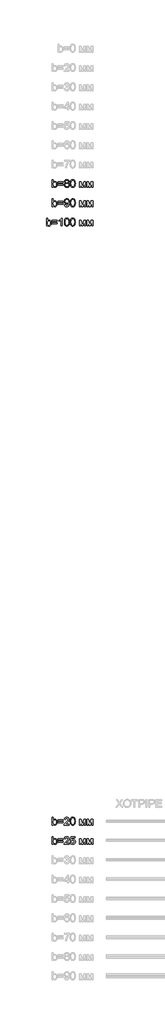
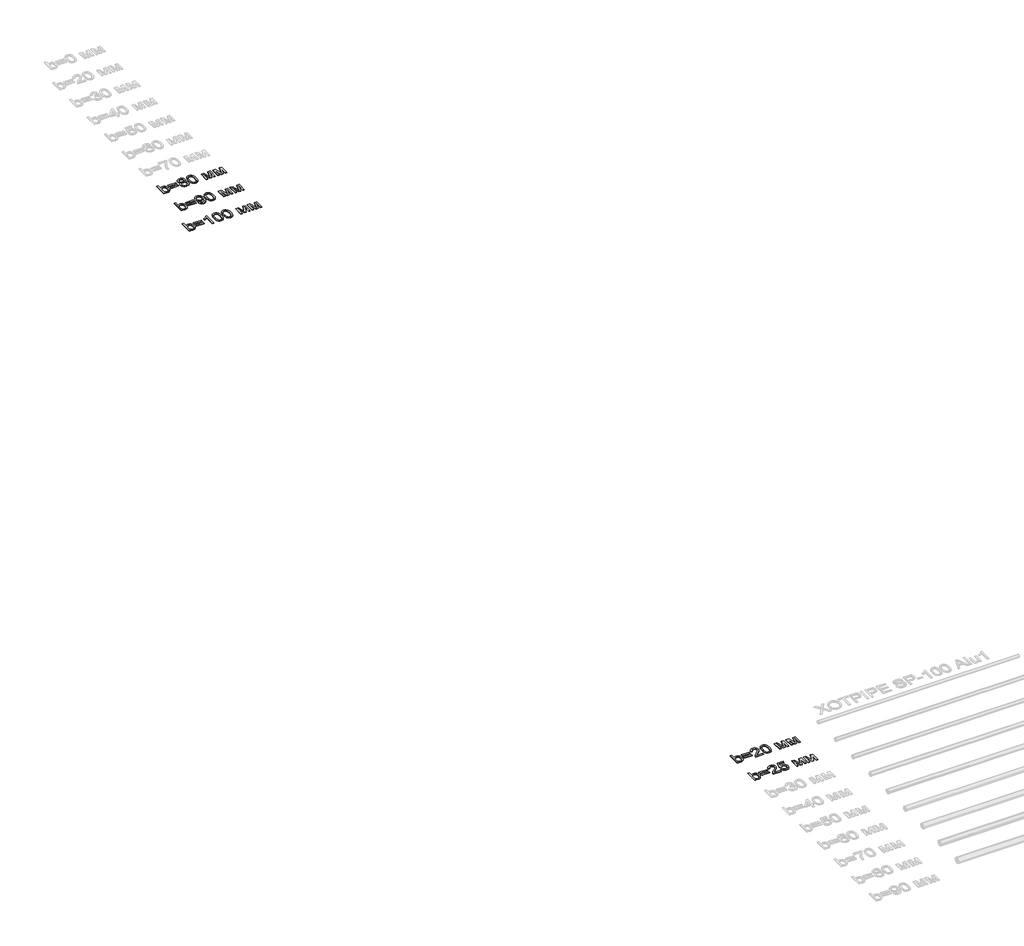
# One storey, part 47 of 86: 5 proxies.
"""IFC4 building model written with IfcOpenShell, lengths in millimetres."""

import ifcopenshell
import ifcopenshell.guid

model = None  # the IFC model being written
_history = None  # IfcOwnerHistory: only IFC2X3 demands one
_inside = {}  # id of a spatial element -> (the spatial element, [elements in it])
_under = {}  # id of a project, library or spatial element -> (it, [spatial elements below it])
_declared = {}  # id of a project -> (the project, [libraries it declares])
_typed = {}  # id of a type object -> (the type object, [elements of that type])
_made_of = {}  # id of a material, layer set ... -> (it, [elements and type objects made of it])


def new_model(schema):
    """Start an empty IFC model of exactly this schema.

    Asked for "IFC4X3", IfcOpenShell would pick the latest addendum, in which some entities
    have other attributes; the version numbers below select the first issue.
    IFC2X3 requires an IfcOwnerHistory on every rooted entity: one is made here for all.
    """
    global model, _history
    if schema == "IFC4X3":
        model = ifcopenshell.file(schema_version=(4, 3, 0, 0))
    else:
        model = ifcopenshell.file(schema=schema)
    _inside.clear()
    _under.clear()
    _declared.clear()
    _typed.clear()
    _made_of.clear()
    _history = None
    if model.schema == "IFC2X3":
        org = make("IfcOrganization", Name="unknown")
        user = make(
            "IfcPersonAndOrganization",
            ThePerson=make("IfcPerson", FamilyName="unknown"),
            TheOrganization=org,
        )
        app = make(
            "IfcApplication",
            ApplicationDeveloper=org,
            Version="unknown",
            ApplicationFullName="unknown",
            ApplicationIdentifier="unknown",
        )
        _history = make(
            "IfcOwnerHistory",
            OwningUser=user,
            OwningApplication=app,
            ChangeAction="ADDED",
            CreationDate=0,
        )
    return model


def make(cls, **values):
    """One entity of the class cls with the attributes given. An attribute that is None is left unset."""
    return model.create_entity(
        cls, **{name: value for name, value in values.items() if value is not None}
    )


def rooted(cls, **values):
    """An entity with a GlobalId (a new one), such as an element, a storey or a relation."""
    return make(cls, GlobalId=ifcopenshell.guid.new(), OwnerHistory=_history, **values)


def si_unit(unit_type, name, prefix=None):
    """IfcSIUnit, for example si_unit("LENGTHUNIT", "METRE", prefix="MILLI")."""
    return make("IfcSIUnit", UnitType=unit_type, Prefix=prefix, Name=name)


def assignment(units):
    """IfcUnitAssignment: the units of a project."""
    return None if units is None else make("IfcUnitAssignment", Units=units)


def point(xyz):
    """IfcCartesianPoint."""
    return None if xyz is None else make("IfcCartesianPoint", Coordinates=xyz)


def direction(xyz):
    """IfcDirection."""
    return None if xyz is None else make("IfcDirection", DirectionRatios=xyz)


def frame(location, z_axis=None, x_axis=None):
    """IfcAxis2Placement3D, a coordinate frame: its origin and axes. An axis left out is left unset."""
    return make(
        "IfcAxis2Placement3D",
        Location=point(location),
        Axis=direction(z_axis),
        RefDirection=direction(x_axis),
    )


def origin():
    """The frame at (0, 0, 0) with its axes left unset."""
    return frame((0.0, 0.0, 0.0))


def origin_with_axes():
    """The frame at (0, 0, 0) with the z axis (0, 0, 1) and the x axis (1, 0, 0) written out."""
    return frame((0.0, 0.0, 0.0), z_axis=(0.0, 0.0, 1.0), x_axis=(1.0, 0.0, 0.0))


def place(relative_to, where):
    """IfcLocalPlacement: puts the frame where relative to a parent placement (None: the world)."""
    return make(
        "IfcLocalPlacement", PlacementRelTo=relative_to, RelativePlacement=where
    )


def context(
    kind, dimensions, precision=None, world=None, true_north=None, identifier=None
):
    """IfcGeometricRepresentationContext, for example the 3D "Model" context."""
    return make(
        "IfcGeometricRepresentationContext",
        ContextIdentifier=identifier,
        ContextType=kind,
        CoordinateSpaceDimension=dimensions,
        Precision=precision,
        WorldCoordinateSystem=world,
        TrueNorth=true_north,
    )


def project(units=None, contexts=None):
    """IfcProject with its units and contexts."""
    return rooted(
        "IfcProject",
        Name="project",
        RepresentationContexts=contexts,
        UnitsInContext=assignment(units),
    )


def spatial(cls, under=None, at=None, **own):
    """A site, building, storey or space (cls), placed at a placement, below another one or the project."""
    s = rooted(cls, ObjectPlacement=at, **own)
    if under is not None:
        _under.setdefault(under.id(), (under, []))[1].append(s)
    return s


def polyline(points):
    """IfcPolyline through the points."""
    return make("IfcPolyline", Points=[point(p) for p in points])


def outline(outer, holes=None, kind="AREA"):
    """IfcArbitraryClosedProfileDef: a profile drawn as a closed curve; with holes, ...WithVoids."""
    if holes is None:
        return make("IfcArbitraryClosedProfileDef", ProfileType=kind, OuterCurve=outer)
    return make(
        "IfcArbitraryProfileDefWithVoids",
        ProfileType=kind,
        OuterCurve=outer,
        InnerCurves=holes,
    )


def extrude(swept, where, along, depth):
    """IfcExtrudedAreaSolid: the profile swept, set in the frame where, extruded along a direction by depth."""
    return make(
        "IfcExtrudedAreaSolid",
        SweptArea=swept,
        Position=where,
        ExtrudedDirection=direction(along),
        Depth=depth,
    )


def shape(context_of_items, identifier, shape_type, items):
    """IfcShapeRepresentation: the items that make up one representation, for example the "Body"."""
    return make(
        "IfcShapeRepresentation",
        ContextOfItems=context_of_items,
        RepresentationIdentifier=identifier,
        RepresentationType=shape_type,
        Items=items,
    )


def made_of(thing, what):
    """Note that an element or type object is made of a material, layer set ...; save() writes the relation."""
    if what is not None:
        _made_of.setdefault(what.id(), (what, []))[1].append(thing)
    return thing


def element(
    cls,
    number,
    at=None,
    inside=None,
    cuts=None,
    type_object=None,
    material=None,
    context=None,
    identifier="Body",
    shape_type=None,
    held_by="IfcProductDefinitionShape",
    body=None,
    shapes=None,
    **own,
):
    """One element of the class cls, such as IfcWall. Its Tag is "e" and its number.

    at: its placement. inside: the storey or other place that contains it. cuts: it is an
    opening in that element (IfcRelVoidsElement). A single representation is given by context,
    identifier, shape_type and body (its items); several are given by shapes. held_by: the class
    of the entity that holds the representations. save() writes the other relations.
    """
    e = rooted(cls, Tag="e%d" % number, ObjectPlacement=at, **own)
    if body is not None:
        shapes = [shape(context, identifier, shape_type, body)]
    if shapes is not None:
        e.Representation = make(held_by, Representations=shapes)
    if inside is not None:
        _inside.setdefault(inside.id(), (inside, []))[1].append(e)
    if cuts is not None:
        rooted(
            "IfcRelVoidsElement", RelatingBuildingElement=cuts, RelatedOpeningElement=e
        )
    if type_object is not None:
        _typed.setdefault(type_object.id(), (type_object, []))[1].append(e)
    return made_of(e, material)


def aggregate(whole, parts):
    """IfcRelAggregates: a whole, such as a stair, and the parts it consists of."""
    return rooted("IfcRelAggregates", RelatingObject=whole, RelatedObjects=parts)


def save(model, path):
    """Write the relations noted so far, then the file.

    IfcRelAggregates (storeys below a building ...), IfcRelContainedInSpatialStructure (elements
    in a storey), IfcRelDefinesByType, IfcRelAssociatesMaterial and IfcRelDeclares: one each for
    every whole, place, type object, material and project.
    """
    for whole, parts in _under.values():
        aggregate(whole, parts)
    for where, things in _inside.values():
        rooted(
            "IfcRelContainedInSpatialStructure",
            RelatedElements=things,
            RelatingStructure=where,
        )
    for kind, things in _typed.values():
        rooted("IfcRelDefinesByType", RelatedObjects=things, RelatingType=kind)
    for what, things in _made_of.values():
        rooted("IfcRelAssociatesMaterial", RelatedObjects=things, RelatingMaterial=what)
    for by, libraries in _declared.values():
        rooted("IfcRelDeclares", RelatingContext=by, RelatedDefinitions=libraries)
    model.write(path)


model = new_model("IFC4")

# Units and contexts
model_context = context("Model", 3, world=origin())
ifc_project = project(units=[si_unit("LENGTHUNIT", "METRE", prefix="MILLI")], contexts=[model_context])

# Site, building, storey
site = spatial("IfcSite", under=ifc_project)
building = spatial("IfcBuilding", under=site)
storey = spatial("IfcBuildingStorey", under=building, Name="Уровень 1", Elevation=0.0)

# Proxies
placement = place(None, origin())
element("IfcBuildingElementProxy", 1, Name="Текст модели 1", ObjectType="Текст модели 1", at=placement, inside=storey, context=model_context, shape_type="SweptSolid", body=[
    extrude(outline(polyline([(-2840.3692012, 29169.2937088), (-2915.7114338, 29169.2937088), (-2915.7114338, 29772.0315697), (-2840.3692012, 29772.0315697), (-2840.3692012, 29548.5064694), (-2815.5923488, 29580.3742473), (-2787.6149231, 29603.1369457), (-2756.436924, 29616.7945648), (-2722.0583516, 29621.3471045), (-2683.2468011, 29617.2452202), (-2646.5689661, 29604.9395675), (-2614.1217742, 29585.2026984), (-2588.0021525, 29558.8071653), (-2567.5295195, 29526.0104854), (-2552.0232934, 29487.0701762), (-2542.2560264, 29443.6049185), (-2539.0002708, 29397.233393), (-2542.3709895, 29343.7249568), (-2552.4831459, 29296.6544555), (-2569.3367398, 29256.0218892), (-2592.9317712, 29221.8272577), (-2621.2540864, 29194.7235517), (-2652.2895312, 29175.3637617), (-2686.0381057, 29163.7478877), (-2722.49981, 29159.8759297), (-2758.0096195, 29164.8699278), (-2789.4911213, 29179.8519221), (-2816.9443152, 29204.8219125), (-2840.3692012, 29239.7798991), (-2840.3692012, 29169.2937088)]), holes=[polyline([(-2840.3692012, 29393.7017259), (-2835.2188533, 29330.8674811), (-2828.7809184, 29307.065516), (-2819.7678095, 29288.3403224), (-2801.5116655, 29265.0993774), (-2780.2940714, 29248.4987024), (-2756.1150273, 29238.5382973), (-2728.9745331, 29235.2181623), (-2706.4417609, 29237.6645776), (-2685.4908812, 29245.0038234), (-2666.1218942, 29257.2358997), (-2648.3347997, 29274.3608066), (-2633.4631701, 29296.3325588), (-2622.8405775, 29323.105171), (-2616.4670219, 29354.6786432), (-2614.3425034, 29391.0529755), (-2616.3796499, 29428.1170865), (-2622.4910896, 29459.9940614), (-2632.6768223, 29486.6839001), (-2646.9368481, 29508.1866028), (-2664.0847476, 29524.7320955), (-2682.9341014, 29536.5503046), (-2703.4849093, 29543.64123), (-2725.7371715, 29546.0048719), (-2748.2699437, 29543.5584566), (-2769.2208233, 29536.2192108), (-2788.5898104, 29523.9871344), (-2806.3769049, 29506.8622276), (-2821.2485345, 29485.1112046), (-2831.8711271, 29459.00078), (-2838.2446827, 29428.5309538), (-2840.3692012, 29393.7017259)])]), origin_with_axes(), (0.0, 0.0, 1.0), 20.0),
    extrude(outline(polyline([(-2068.1113169, 29517.7515346), (-2463.6580381, 29517.7515346), (-2463.6580381, 29593.0937672), (-2068.1113169, 29593.0937672), (-2068.1113169, 29517.7515346)])), origin_with_axes(), (0.0, 0.0, 1.0), 20.0),
    extrude(outline(polyline([(-2068.1113169, 29338.8137322), (-2463.6580381, 29338.8137322), (-2463.6580381, 29414.1559648), (-2068.1113169, 29414.1559648), (-2068.1113169, 29338.8137322)])), origin_with_axes(), (0.0, 0.0, 1.0), 20.0),
    extrude(outline(polyline([(-1597.2223631, 29244.6359414), (-1597.2223631, 29169.2937088), (-1992.7690843, 29169.2937088), (-1991.1136153, 29195.8180007), (-1984.6756804, 29221.2386465), (-1966.0976397, 29261.8344247), (-1938.9111602, 29301.2161923), (-1899.5845749, 29342.4373698), (-1844.5862167, 29388.5513779), (-1763.2842957, 29460.7666136), (-1714.5031432, 29514.0727147), (-1700.275307, 29535.8513288), (-1690.1125669, 29557.3356373), (-1684.0149228, 29578.5256402), (-1681.9823748, 29599.4213376), (-1683.8999597, 29619.0800317), (-1689.6527144, 29637.1476362), (-1699.2406389, 29653.624151), (-1712.6637332, 29668.5095763), (-1729.1770362, 29680.8382216), (-1748.035587, 29689.6443969), (-1769.2393855, 29694.928102), (-1792.7884317, 29696.6893371), (-1817.5974738, 29694.9694888), (-1839.7853566, 29689.8099438), (-1859.3520802, 29681.2107021), (-1876.2976446, 29669.1717638), (-1890.0058475, 29654.0977991), (-1899.8604864, 29636.3934781), (-1905.8615615, 29616.0588008), (-1908.0090726, 29593.0937672), (-1983.3513052, 29602.5115463), (-1976.8719836, 29641.4058703), (-1965.0859642, 29675.3889696), (-1947.993247, 29704.4608442), (-1925.593832, 29728.6214943), (-1898.402754, 29747.6134023), (-1866.9350479, 29761.1790508), (-1831.1907135, 29769.31844), (-1791.169751, 29772.0315697), (-1750.7901035, 29769.0149373), (-1714.8526311, 29759.9650403), (-1683.3573338, 29744.8818785), (-1656.3042115, 29723.7654519), (-1634.5761812, 29698.1792592), (-1619.0561595, 29669.6867986), (-1609.7441465, 29638.2880704), (-1606.6401422, 29603.9830743), (-1609.9878683, 29567.9490329), (-1620.0310468, 29532.5403908), (-1637.8549295, 29496.5247435), (-1664.5447682, 29458.6696862), (-1707.090321, 29413.4753831), (-1772.4813456, 29355.4419984), (-1859.1543437, 29282.9692453), (-1893.14664, 29244.6359414), (-1597.2223631, 29244.6359414)])), origin_with_axes(), (0.0, 0.0, 1.0), 20.0),
    extrude(outline(polyline([(-1521.8801305, 29465.8065969), (-1516.3435065, 29562.2836501), (-1509.4227264, 29603.1967265), (-1499.7336344, 29639.2261694), (-1487.317617, 29670.6662845), (-1472.2160611, 29697.8113772), (-1454.4289667, 29720.6614476), (-1433.9563336, 29739.2164957), (-1410.7291842, 29753.5730906), (-1384.6785404, 29763.8278012), (-1355.8044023, 29769.9806276), (-1324.1067699, 29772.0315697), (-1277.6800621, 29767.1755274), (-1236.1093966, 29752.6074004), (-1201.3445481, 29728.8974058), (-1175.335291, 29696.6157607), (-1155.6903925, 29656.0383766), (-1140.0186195, 29607.4411651), (-1129.7547118, 29545.7289604), (-1126.3334093, 29465.8065969), (-1131.814851, 29369.8813667), (-1138.6666532, 29329.106246), (-1148.2591762, 29293.1227884), (-1160.5786245, 29261.6688778), (-1175.6112025, 29234.4823983), (-1193.3569103, 29211.56335), (-1213.8157477, 29192.9117329), (-1237.0704884, 29178.458569), (-1263.2039056, 29168.1348805), (-1292.2159994, 29161.9406674), (-1324.1067699, 29159.8759297), (-1365.6038589, 29163.4627792), (-1402.3920585, 29174.2233275), (-1434.4713684, 29192.1575748), (-1461.8417889, 29217.265521), (-1488.1085633, 29262.6529621), (-1506.8705451, 29319.2056218), (-1518.1277341, 29386.9235001), (-1521.8801305, 29465.8065969)]), holes=[polyline([(-1446.5378979, 29465.9537497), (-1444.3306059, 29400.456959), (-1437.70873, 29347.440565), (-1426.6722701, 29306.9045676), (-1411.2212263, 29278.848967), (-1392.532821, 29259.7604899), (-1371.7842765, 29246.1258635), (-1348.9755928, 29237.9450876), (-1324.1067699, 29235.2181623), (-1299.237947, 29237.9542847), (-1276.4292633, 29246.1626517), (-1255.6807188, 29259.8432634), (-1236.9923134, 29278.9961198), (-1221.5412696, 29307.0977057), (-1210.5048098, 29347.624506), (-1203.8829339, 29400.5765206), (-1201.6756419, 29465.9537497), (-1203.8093575, 29529.7168965), (-1210.2105042, 29581.79979), (-1220.879082, 29622.2024301), (-1235.815091, 29650.9248169), (-1254.1907967, 29670.9467945), (-1275.1784645, 29685.248207), (-1298.7780945, 29693.8290546), (-1324.9896867, 29696.6893371), (-1349.7297508, 29694.1693454), (-1372.1521585, 29686.6093704), (-1392.2569095, 29674.0094121), (-1410.044004, 29656.3694704), (-1426.0100825, 29625.0995008), (-1437.4144244, 29582.9402242), (-1444.2570295, 29529.8916405), (-1446.5378979, 29465.9537497)])]), origin_with_axes(), (0.0, 0.0, 1.0), 20.0),
    extrude(outline(polyline([(-806.1289207, 29611.9293254), (-676.4873056, 29611.9293254), (-576.5705557, 29257.5853876), (-468.8547075, 29611.9293254), (-344.6577459, 29611.9293254), (-344.6577459, 29169.2937088), (-419.9999785, 29169.2937088), (-419.9999785, 29525.6977857), (-528.3044379, 29169.2937088), (-627.1911182, 29169.2937088), (-730.7866881, 29542.7675103), (-730.7866881, 29169.2937088), (-806.1289207, 29169.2937088), (-806.1289207, 29611.9293254)])), origin_with_axes(), (0.0, 0.0, 1.0), 20.0),
    extrude(outline(polyline([(-231.644397, 29611.9293254), (-102.0027819, 29611.9293254), (-2.086032, 29257.5853876), (105.6298162, 29611.9293254), (229.8267777, 29611.9293254), (229.8267777, 29169.2937088), (154.4845451, 29169.2937088), (154.4845451, 29525.6977857), (46.1800857, 29169.2937088), (-52.7065946, 29169.2937088), (-156.3021644, 29542.7675103), (-156.3021644, 29169.2937088), (-231.644397, 29169.2937088), (-231.644397, 29611.9293254)])), origin_with_axes(), (0.0, 0.0, 1.0), 20.0),
])
element("IfcBuildingElementProxy", 2, Name="Текст модели 1", ObjectType="Текст модели 1", at=placement, inside=storey, context=model_context, shape_type="SweptSolid", body=[
    extrude(outline(polyline([(-2840.3692012, 27669.2937088), (-2915.7114338, 27669.2937088), (-2915.7114338, 28272.0315697), (-2840.3692012, 28272.0315697), (-2840.3692012, 28048.5064694), (-2815.5923488, 28080.3742473), (-2787.6149231, 28103.1369457), (-2756.436924, 28116.7945648), (-2722.0583516, 28121.3471045), (-2683.2468011, 28117.2452202), (-2646.5689661, 28104.9395675), (-2614.1217742, 28085.2026984), (-2588.0021525, 28058.8071653), (-2567.5295195, 28026.0104854), (-2552.0232934, 27987.0701762), (-2542.2560264, 27943.6049185), (-2539.0002708, 27897.233393), (-2542.3709895, 27843.7249568), (-2552.4831459, 27796.6544555), (-2569.3367398, 27756.0218892), (-2592.9317712, 27721.8272577), (-2621.2540864, 27694.7235517), (-2652.2895312, 27675.3637617), (-2686.0381057, 27663.7478877), (-2722.49981, 27659.8759297), (-2758.0096195, 27664.8699278), (-2789.4911213, 27679.8519221), (-2816.9443152, 27704.8219125), (-2840.3692012, 27739.7798991), (-2840.3692012, 27669.2937088)]), holes=[polyline([(-2840.3692012, 27893.7017259), (-2835.2188533, 27830.8674811), (-2828.7809184, 27807.065516), (-2819.7678095, 27788.3403224), (-2801.5116655, 27765.0993774), (-2780.2940714, 27748.4987024), (-2756.1150273, 27738.5382973), (-2728.9745331, 27735.2181623), (-2706.4417609, 27737.6645776), (-2685.4908812, 27745.0038234), (-2666.1218942, 27757.2358997), (-2648.3347997, 27774.3608066), (-2633.4631701, 27796.3325588), (-2622.8405775, 27823.105171), (-2616.4670219, 27854.6786432), (-2614.3425034, 27891.0529755), (-2616.3796499, 27928.1170865), (-2622.4910896, 27959.9940614), (-2632.6768223, 27986.6839001), (-2646.9368481, 28008.1866028), (-2664.0847476, 28024.7320955), (-2682.9341014, 28036.5503046), (-2703.4849093, 28043.64123), (-2725.7371715, 28046.0048719), (-2748.2699437, 28043.5584566), (-2769.2208233, 28036.2192108), (-2788.5898104, 28023.9871344), (-2806.3769049, 28006.8622276), (-2821.2485345, 27985.1112046), (-2831.8711271, 27959.00078), (-2838.2446827, 27928.5309538), (-2840.3692012, 27893.7017259)])]), origin_with_axes(), (0.0, 0.0, 1.0), 20.0),
    extrude(outline(polyline([(-2068.1113169, 28017.7515346), (-2463.6580381, 28017.7515346), (-2463.6580381, 28093.0937672), (-2068.1113169, 28093.0937672), (-2068.1113169, 28017.7515346)])), origin_with_axes(), (0.0, 0.0, 1.0), 20.0),
    extrude(outline(polyline([(-2068.1113169, 27838.8137322), (-2463.6580381, 27838.8137322), (-2463.6580381, 27914.1559648), (-2068.1113169, 27914.1559648), (-2068.1113169, 27838.8137322)])), origin_with_axes(), (0.0, 0.0, 1.0), 20.0),
    extrude(outline(polyline([(-1597.2223631, 27744.6359414), (-1597.2223631, 27669.2937088), (-1992.7690843, 27669.2937088), (-1991.1136153, 27695.8180007), (-1984.6756804, 27721.2386465), (-1966.0976397, 27761.8344247), (-1938.9111602, 27801.2161923), (-1899.5845749, 27842.4373698), (-1844.5862167, 27888.5513779), (-1763.2842957, 27960.7666136), (-1714.5031432, 28014.0727147), (-1700.275307, 28035.8513288), (-1690.1125669, 28057.3356373), (-1684.0149228, 28078.5256402), (-1681.9823748, 28099.4213376), (-1683.8999597, 28119.0800317), (-1689.6527144, 28137.1476362), (-1699.2406389, 28153.624151), (-1712.6637332, 28168.5095763), (-1729.1770362, 28180.8382216), (-1748.035587, 28189.6443969), (-1769.2393855, 28194.928102), (-1792.7884317, 28196.6893371), (-1817.5974738, 28194.9694888), (-1839.7853566, 28189.8099438), (-1859.3520802, 28181.2107021), (-1876.2976446, 28169.1717638), (-1890.0058475, 28154.0977991), (-1899.8604864, 28136.3934781), (-1905.8615615, 28116.0588008), (-1908.0090726, 28093.0937672), (-1983.3513052, 28102.5115463), (-1976.8719836, 28141.4058703), (-1965.0859642, 28175.3889696), (-1947.993247, 28204.4608442), (-1925.593832, 28228.6214943), (-1898.402754, 28247.6134023), (-1866.9350479, 28261.1790508), (-1831.1907135, 28269.31844), (-1791.169751, 28272.0315697), (-1750.7901035, 28269.0149373), (-1714.8526311, 28259.9650403), (-1683.3573338, 28244.8818785), (-1656.3042115, 28223.7654519), (-1634.5761812, 28198.1792592), (-1619.0561595, 28169.6867986), (-1609.7441465, 28138.2880704), (-1606.6401422, 28103.9830743), (-1609.9878683, 28067.9490329), (-1620.0310468, 28032.5403908), (-1637.8549295, 27996.5247435), (-1664.5447682, 27958.6696862), (-1707.090321, 27913.4753831), (-1772.4813456, 27855.4419984), (-1859.1543437, 27782.9692453), (-1893.14664, 27744.6359414), (-1597.2223631, 27744.6359414)])), origin_with_axes(), (0.0, 0.0, 1.0), 20.0),
    extrude(outline(polyline([(-1521.8801305, 27829.3959531), (-1446.5378979, 27838.8137322), (-1440.9093034, 27814.5933013), (-1432.7055349, 27793.5826409), (-1421.9265924, 27775.7817508), (-1408.572476, 27761.1906312), (-1392.6707767, 27749.8276761), (-1374.2490858, 27741.7112795), (-1353.3074033, 27736.8414416), (-1329.845729, 27735.2181623), (-1301.1509334, 27737.4760381), (-1275.8406521, 27744.2496653), (-1253.9148852, 27755.539044), (-1235.3736326, 27771.3441743), (-1220.6307617, 27790.8833067), (-1210.1001396, 27813.3746922), (-1203.7817663, 27838.8183307), (-1201.6756419, 27867.2142222), (-1203.6484091, 27894.0512138), (-1209.5667107, 27917.9083611), (-1219.4305467, 27938.7856644), (-1233.2399171, 27956.6831234), (-1251.0408071, 27971.0397183), (-1272.8792021, 27981.2944289), (-1298.7551019, 27987.4472553), (-1328.6685066, 27989.4981974), (-1365.2175828, 27986.2240476), (-1394.8136894, 27976.4015984), (-1418.4501075, 27961.3552248), (-1437.1201188, 27942.409302), (-1512.4623514, 27951.8270811), (-1446.5378979, 28262.6137906), (-1154.5867465, 28262.6137906), (-1154.5867465, 28187.271558), (-1385.6166395, 28187.271558), (-1417.8431023, 28021.2832018), (-1391.2544311, 28040.3394891), (-1364.0219664, 28053.951123), (-1336.1457082, 28062.1181032), (-1307.6256565, 28064.84043), (-1270.934026, 28061.4651127), (-1237.2314367, 28051.3391608), (-1206.5178887, 28034.4625743), (-1178.7933818, 28010.8353531), (-1155.8421438, 27981.9014342), (-1139.4484024, 27949.1047543), (-1129.6121576, 27912.4453135), (-1126.3334093, 27871.9231117), (-1129.2856623, 27832.8908321), (-1138.1424213, 27796.5808791), (-1152.9036864, 27762.993253), (-1173.5694575, 27732.1279536), (-1204.8762152, 27700.5176931), (-1241.4068974, 27677.9389357), (-1283.1615038, 27664.3916812), (-1330.1400346, 27659.8759297), (-1369.020563, 27662.777599), (-1404.1394979, 27671.4826067), (-1435.4968395, 27685.9909529), (-1463.0925877, 27706.3026375), (-1486.0530227, 27731.4059852), (-1503.5044248, 27760.2893203), (-1515.4467941, 27792.952643), (-1521.8801305, 27829.3959531)])), origin_with_axes(), (0.0, 0.0, 1.0), 20.0),
    extrude(outline(polyline([(-806.1289207, 28111.9293254), (-676.4873056, 28111.9293254), (-576.5705557, 27757.5853876), (-468.8547075, 28111.9293254), (-344.6577459, 28111.9293254), (-344.6577459, 27669.2937088), (-419.9999785, 27669.2937088), (-419.9999785, 28025.6977857), (-528.3044379, 27669.2937088), (-627.1911182, 27669.2937088), (-730.7866881, 28042.7675103), (-730.7866881, 27669.2937088), (-806.1289207, 27669.2937088), (-806.1289207, 28111.9293254)])), origin_with_axes(), (0.0, 0.0, 1.0), 20.0),
    extrude(outline(polyline([(-231.644397, 28111.9293254), (-102.0027819, 28111.9293254), (-2.086032, 27757.5853876), (105.6298162, 28111.9293254), (229.8267777, 28111.9293254), (229.8267777, 27669.2937088), (154.4845451, 27669.2937088), (154.4845451, 28025.6977857), (46.1800857, 27669.2937088), (-52.7065946, 27669.2937088), (-156.3021644, 28042.7675103), (-156.3021644, 27669.2937088), (-231.644397, 27669.2937088), (-231.644397, 28111.9293254)])), origin_with_axes(), (0.0, 0.0, 1.0), 20.0),
])
element("IfcBuildingElementProxy", 3, Name="Текст модели 1", ObjectType="Текст модели 1", at=placement, inside=storey, context=model_context, shape_type="SweptSolid", body=[
    extrude(outline(polyline([(-2840.3692012, 78669.2937088), (-2915.7114338, 78669.2937088), (-2915.7114338, 79272.0315697), (-2840.3692012, 79272.0315697), (-2840.3692012, 79048.5064694), (-2815.5923488, 79080.3742473), (-2787.6149231, 79103.1369457), (-2756.436924, 79116.7945648), (-2722.0583516, 79121.3471045), (-2683.2468011, 79117.2452202), (-2646.5689661, 79104.9395675), (-2614.1217742, 79085.2026984), (-2588.0021525, 79058.8071653), (-2567.5295195, 79026.0104854), (-2552.0232934, 78987.0701762), (-2542.2560264, 78943.6049185), (-2539.0002708, 78897.233393), (-2542.3709895, 78843.7249568), (-2552.4831459, 78796.6544555), (-2569.3367398, 78756.0218892), (-2592.9317712, 78721.8272577), (-2621.2540864, 78694.7235517), (-2652.2895312, 78675.3637617), (-2686.0381057, 78663.7478877), (-2722.49981, 78659.8759297), (-2758.0096195, 78664.8699278), (-2789.4911213, 78679.8519221), (-2816.9443152, 78704.8219125), (-2840.3692012, 78739.7798991), (-2840.3692012, 78669.2937088)]), holes=[polyline([(-2840.3692012, 78893.7017259), (-2835.2188533, 78830.8674811), (-2828.7809184, 78807.065516), (-2819.7678095, 78788.3403224), (-2801.5116655, 78765.0993774), (-2780.2940714, 78748.4987024), (-2756.1150273, 78738.5382973), (-2728.9745331, 78735.2181623), (-2706.4417609, 78737.6645776), (-2685.4908812, 78745.0038234), (-2666.1218942, 78757.2358997), (-2648.3347997, 78774.3608066), (-2633.4631701, 78796.3325588), (-2622.8405775, 78823.105171), (-2616.4670219, 78854.6786432), (-2614.3425034, 78891.0529755), (-2616.3796499, 78928.1170865), (-2622.4910896, 78959.9940614), (-2632.6768223, 78986.6839001), (-2646.9368481, 79008.1866028), (-2664.0847476, 79024.7320955), (-2682.9341014, 79036.5503046), (-2703.4849093, 79043.64123), (-2725.7371715, 79046.0048719), (-2748.2699437, 79043.5584566), (-2769.2208233, 79036.2192108), (-2788.5898104, 79023.9871344), (-2806.3769049, 79006.8622276), (-2821.2485345, 78985.1112046), (-2831.8711271, 78959.00078), (-2838.2446827, 78928.5309538), (-2840.3692012, 78893.7017259)])]), origin_with_axes(), (0.0, 0.0, 1.0), 20.0),
    extrude(outline(polyline([(-2068.1113169, 79017.7515346), (-2463.6580381, 79017.7515346), (-2463.6580381, 79093.0937672), (-2068.1113169, 79093.0937672), (-2068.1113169, 79017.7515346)])), origin_with_axes(), (0.0, 0.0, 1.0), 20.0),
    extrude(outline(polyline([(-2068.1113169, 78838.8137322), (-2463.6580381, 78838.8137322), (-2463.6580381, 78914.1559648), (-2068.1113169, 78914.1559648), (-2068.1113169, 78838.8137322)])), origin_with_axes(), (0.0, 0.0, 1.0), 20.0),
    extrude(outline(polyline([(-1873.5753179, 79001.2704212), (-1913.9135787, 79021.136049), (-1929.5715561, 79033.7176132), (-1942.2220982, 79048.065011), (-1958.9423349, 79081.5054844), (-1964.5157471, 79120.9056461), (-1961.4807206, 79151.6329897), (-1952.3756412, 79179.8035535), (-1937.2005089, 79205.4173374), (-1915.9553237, 79228.4743415), (-1889.6609581, 79247.5306288), (-1859.3382847, 79261.1422626), (-1824.9873034, 79269.3092429), (-1786.6080142, 79272.0315697), (-1748.0447841, 79269.2448636), (-1713.4362854, 79260.8847452), (-1682.7825181, 79246.9512147), (-1656.0834823, 79227.4442719), (-1634.452021, 79203.9366124), (-1619.0009772, 79178.0009317), (-1609.7303509, 79149.6372299), (-1606.6401422, 79118.8455069), (-1612.139978, 79080.7145381), (-1628.6394855, 79047.8442818), (-1641.0601014, 79033.593453), (-1656.3226056, 79021.0808667), (-1695.3732794, 79001.2704212), (-1670.6102226, 78990.7352006), (-1649.0017539, 78977.3764857), (-1630.5478733, 78961.1942764), (-1615.2485809, 78942.1885728), (-1603.2418323, 78920.7824392), (-1594.6655832, 78897.3989399), (-1589.5198338, 78872.0380749), (-1587.804584, 78844.6998441), (-1591.2074925, 78807.1206983), (-1601.4162178, 78772.6685494), (-1618.4307601, 78741.3433976), (-1642.2511193, 78713.1452426), (-1671.6264966, 78689.8399182), (-1705.3060933, 78673.1932579), (-1743.2899093, 78663.2052618), (-1785.5779446, 78659.8759297), (-1827.86598, 78663.2190574), (-1865.849796, 78673.2484402), (-1899.5293926, 78689.9640784), (-1928.90477, 78713.3659718), (-1952.7251291, 78741.7618633), (-1969.7396714, 78773.4594957), (-1979.9483968, 78808.458869), (-1983.3513052, 78846.7599833), (-1981.5670776, 78875.3444143), (-1976.2143945, 78901.5008242), (-1967.2932562, 78925.2292128), (-1954.8036624, 78946.5295804), (-1939.0215248, 78965.0156506), (-1920.2227549, 78980.3011475), (-1898.4073526, 78992.3860711), (-1873.5753179, 79001.2704212)]), holes=[polyline([(-1889.1735145, 79118.6983541), (-1887.5042499, 79101.4262944), (-1882.4964563, 79085.8097037), (-1874.1501335, 79071.848582), (-1862.4652816, 79059.5429293), (-1847.5890534, 79049.4997508), (-1829.6686018, 79042.3260519), (-1808.7039266, 79038.0218326), (-1784.6950278, 79036.5870928), (-1761.2793389, 79038.0126355), (-1740.7699176, 79042.2892637), (-1723.1667642, 79049.4169774), (-1708.4698784, 79059.3957765), (-1696.8815956, 79071.4439118), (-1688.6042507, 79084.7796342), (-1683.6378438, 79099.4029435), (-1681.9823748, 79115.3138398), (-1683.6930261, 79131.8455369), (-1688.8249799, 79147.0068736), (-1697.3782363, 79160.7978499), (-1709.3527952, 79173.2184658), (-1724.3807747, 79183.486972), (-1742.0942928, 79190.8216193), (-1762.4933494, 79195.2224076), (-1785.5779446, 79196.6893371), (-1808.8418823, 79195.2545973), (-1829.337508, 79190.950378), (-1847.0648216, 79183.7766791), (-1862.0238232, 79173.7335006), (-1873.9018132, 79161.6853652), (-1882.3860917, 79148.4967957), (-1887.4766588, 79134.167792), (-1889.1735145, 79118.6983541)]), polyline([(-1908.0090726, 78849.4087336), (-1904.8636816, 78820.5851793), (-1895.4275084, 78792.68133), (-1878.0082959, 78768.345936), (-1850.913787, 78750.2277477), (-1818.466595, 78738.9705587), (-1784.9893334, 78735.2181623), (-1757.7476717, 78737.1909295), (-1733.7065833, 78743.1092311), (-1712.8660683, 78752.9730671), (-1695.2261266, 78766.7824375), (-1681.1914285, 78783.6360314), (-1671.1666441, 78802.632538), (-1665.1517735, 78823.7719571), (-1663.1468166, 78847.0542889), (-1665.2161529, 78870.7091012), (-1671.4241615, 78892.2301979), (-1681.7708426, 78911.617579), (-1696.2561962, 78928.8712446), (-1714.3743845, 78943.0347014), (-1735.6195697, 78953.1514563), (-1759.9917519, 78959.2215092), (-1787.490931, 78961.2448602), (-1814.3325211, 78959.2491003), (-1838.0563112, 78953.2618209), (-1858.6623015, 78943.2830218), (-1876.1504918, 78929.312703), (-1890.0886209, 78912.344146), (-1900.0444274, 78893.3706321), (-1906.0179113, 78872.3921613), (-1908.0090726, 78849.4087336)])]), origin_with_axes(), (0.0, 0.0, 1.0), 20.0),
    extrude(outline(polyline([(-1521.8801305, 78965.8065969), (-1516.3435065, 79062.2836501), (-1509.4227264, 79103.1967265), (-1499.7336344, 79139.2261694), (-1487.317617, 79170.6662845), (-1472.2160611, 79197.8113772), (-1454.4289667, 79220.6614476), (-1433.9563336, 79239.2164957), (-1410.7291842, 79253.5730906), (-1384.6785404, 79263.8278012), (-1355.8044023, 79269.9806276), (-1324.1067699, 79272.0315697), (-1277.6800621, 79267.1755274), (-1236.1093966, 79252.6074004), (-1201.3445481, 79228.8974058), (-1175.335291, 79196.6157607), (-1155.6903925, 79156.0383766), (-1140.0186195, 79107.4411651), (-1129.7547118, 79045.7289604), (-1126.3334093, 78965.8065969), (-1131.814851, 78869.8813667), (-1138.6666532, 78829.106246), (-1148.2591762, 78793.1227884), (-1160.5786245, 78761.6688778), (-1175.6112025, 78734.4823983), (-1193.3569103, 78711.56335), (-1213.8157477, 78692.9117329), (-1237.0704884, 78678.458569), (-1263.2039056, 78668.1348805), (-1292.2159994, 78661.9406674), (-1324.1067699, 78659.8759297), (-1365.6038589, 78663.4627792), (-1402.3920585, 78674.2233275), (-1434.4713684, 78692.1575748), (-1461.8417889, 78717.265521), (-1488.1085633, 78762.6529621), (-1506.8705451, 78819.2056218), (-1518.1277341, 78886.9235001), (-1521.8801305, 78965.8065969)]), holes=[polyline([(-1446.5378979, 78965.9537497), (-1444.3306059, 78900.456959), (-1437.70873, 78847.440565), (-1426.6722701, 78806.9045676), (-1411.2212263, 78778.848967), (-1392.532821, 78759.7604899), (-1371.7842765, 78746.1258635), (-1348.9755928, 78737.9450876), (-1324.1067699, 78735.2181623), (-1299.237947, 78737.9542847), (-1276.4292633, 78746.1626517), (-1255.6807188, 78759.8432634), (-1236.9923134, 78778.9961198), (-1221.5412696, 78807.0977057), (-1210.5048098, 78847.624506), (-1203.8829339, 78900.5765206), (-1201.6756419, 78965.9537497), (-1203.8093575, 79029.7168965), (-1210.2105042, 79081.79979), (-1220.879082, 79122.2024301), (-1235.815091, 79150.9248169), (-1254.1907967, 79170.9467945), (-1275.1784645, 79185.248207), (-1298.7780945, 79193.8290546), (-1324.9896867, 79196.6893371), (-1349.7297508, 79194.1693454), (-1372.1521585, 79186.6093704), (-1392.2569095, 79174.0094121), (-1410.044004, 79156.3694704), (-1426.0100825, 79125.0995008), (-1437.4144244, 79082.9402242), (-1444.2570295, 79029.8916405), (-1446.5378979, 78965.9537497)])]), origin_with_axes(), (0.0, 0.0, 1.0), 20.0),
    extrude(outline(polyline([(-806.1289207, 79111.9293254), (-676.4873056, 79111.9293254), (-576.5705557, 78757.5853876), (-468.8547075, 79111.9293254), (-344.6577459, 79111.9293254), (-344.6577459, 78669.2937088), (-419.9999785, 78669.2937088), (-419.9999785, 79025.6977857), (-528.3044379, 78669.2937088), (-627.1911182, 78669.2937088), (-730.7866881, 79042.7675103), (-730.7866881, 78669.2937088), (-806.1289207, 78669.2937088), (-806.1289207, 79111.9293254)])), origin_with_axes(), (0.0, 0.0, 1.0), 20.0),
    extrude(outline(polyline([(-231.644397, 79111.9293254), (-102.0027819, 79111.9293254), (-2.086032, 78757.5853876), (105.6298162, 79111.9293254), (229.8267777, 79111.9293254), (229.8267777, 78669.2937088), (154.4845451, 78669.2937088), (154.4845451, 79025.6977857), (46.1800857, 78669.2937088), (-52.7065946, 78669.2937088), (-156.3021644, 79042.7675103), (-156.3021644, 78669.2937088), (-231.644397, 78669.2937088), (-231.644397, 79111.9293254)])), origin_with_axes(), (0.0, 0.0, 1.0), 20.0),
])
element("IfcBuildingElementProxy", 4, Name="Текст модели 1", ObjectType="Текст модели 1", at=placement, inside=storey, context=model_context, shape_type="SweptSolid", body=[
    extrude(outline(polyline([(-2840.3692012, 77169.2937088), (-2915.7114338, 77169.2937088), (-2915.7114338, 77772.0315697), (-2840.3692012, 77772.0315697), (-2840.3692012, 77548.5064694), (-2815.5923488, 77580.3742473), (-2787.6149231, 77603.1369457), (-2756.436924, 77616.7945648), (-2722.0583516, 77621.3471045), (-2683.2468011, 77617.2452202), (-2646.5689661, 77604.9395675), (-2614.1217742, 77585.2026984), (-2588.0021525, 77558.8071653), (-2567.5295195, 77526.0104854), (-2552.0232934, 77487.0701762), (-2542.2560264, 77443.6049185), (-2539.0002708, 77397.233393), (-2542.3709895, 77343.7249568), (-2552.4831459, 77296.6544555), (-2569.3367398, 77256.0218892), (-2592.9317712, 77221.8272577), (-2621.2540864, 77194.7235517), (-2652.2895312, 77175.3637617), (-2686.0381057, 77163.7478877), (-2722.49981, 77159.8759297), (-2758.0096195, 77164.8699278), (-2789.4911213, 77179.8519221), (-2816.9443152, 77204.8219125), (-2840.3692012, 77239.7798991), (-2840.3692012, 77169.2937088)]), holes=[polyline([(-2840.3692012, 77393.7017259), (-2835.2188533, 77330.8674811), (-2828.7809184, 77307.065516), (-2819.7678095, 77288.3403224), (-2801.5116655, 77265.0993774), (-2780.2940714, 77248.4987024), (-2756.1150273, 77238.5382973), (-2728.9745331, 77235.2181623), (-2706.4417609, 77237.6645776), (-2685.4908812, 77245.0038234), (-2666.1218942, 77257.2358997), (-2648.3347997, 77274.3608066), (-2633.4631701, 77296.3325588), (-2622.8405775, 77323.105171), (-2616.4670219, 77354.6786432), (-2614.3425034, 77391.0529755), (-2616.3796499, 77428.1170865), (-2622.4910896, 77459.9940614), (-2632.6768223, 77486.6839001), (-2646.9368481, 77508.1866028), (-2664.0847476, 77524.7320955), (-2682.9341014, 77536.5503046), (-2703.4849093, 77543.64123), (-2725.7371715, 77546.0048719), (-2748.2699437, 77543.5584566), (-2769.2208233, 77536.2192108), (-2788.5898104, 77523.9871344), (-2806.3769049, 77506.8622276), (-2821.2485345, 77485.1112046), (-2831.8711271, 77459.00078), (-2838.2446827, 77428.5309538), (-2840.3692012, 77393.7017259)])]), origin_with_axes(), (0.0, 0.0, 1.0), 20.0),
    extrude(outline(polyline([(-2068.1113169, 77517.7515346), (-2463.6580381, 77517.7515346), (-2463.6580381, 77593.0937672), (-2068.1113169, 77593.0937672), (-2068.1113169, 77517.7515346)])), origin_with_axes(), (0.0, 0.0, 1.0), 20.0),
    extrude(outline(polyline([(-2068.1113169, 77338.8137322), (-2463.6580381, 77338.8137322), (-2463.6580381, 77414.1559648), (-2068.1113169, 77414.1559648), (-2068.1113169, 77338.8137322)])), origin_with_axes(), (0.0, 0.0, 1.0), 20.0),
    extrude(outline(polyline([(-1973.9335262, 77319.978174), (-1898.5912936, 77329.3959531), (-1885.7154237, 77286.6296712), (-1876.2424623, 77270.3646884), (-1864.74615, 77257.5118112), (-1851.3552454, 77247.7583398), (-1836.1985072, 77240.7915746), (-1800.58753, 77235.2181623), (-1768.6369788, 77238.8050118), (-1739.5926952, 77249.5655601), (-1715.4596364, 77266.322585), (-1698.242759, 77287.898864), (-1685.2013423, 77316.2625659), (-1673.5946653, 77353.3818592), (-1665.427685, 77395.9825942), (-1662.7053582, 77440.7906212), (-1663.1468166, 77455.505901), (-1689.2480442, 77423.6473203), (-1723.4058874, 77398.4106154), (-1763.155537, 77381.9662902), (-1806.0321836, 77376.4848485), (-1841.8225032, 77379.8325746), (-1874.7341462, 77389.8757531), (-1904.7671125, 77406.6143839), (-1931.9214023, 77430.048467), (-1954.4219848, 77458.9547948), (-1970.4938295, 77492.1101596), (-1980.1369363, 77529.5145614), (-1983.3513052, 77571.1680003), (-1979.9805865, 77614.2101938), (-1969.8684301, 77652.8378033), (-1953.0148362, 77687.0508288), (-1929.4198047, 77716.8492704), (-1900.7480017, 77740.9915264), (-1868.6640932, 77758.2359949), (-1833.1680792, 77768.582676), (-1794.2599597, 77772.0315697), (-1765.5329744, 77770.063401), (-1738.065985, 77764.158895), (-1711.8589913, 77754.3180516), (-1686.9119935, 77740.5408709), (-1664.0573246, 77723.1216584), (-1644.1273175, 77702.3547198), (-1627.1219723, 77678.240055), (-1613.0412889, 77650.7776641), (-1602.0002305, 77618.3856544), (-1594.1137602, 77579.4821334), (-1589.3818781, 77534.0671011), (-1587.804584, 77482.1405575), (-1589.3772796, 77427.6066502), (-1594.0953661, 77378.9312638), (-1601.9588438, 77336.114398), (-1612.9677125, 77299.1560531), (-1627.0805855, 77267.154918), (-1644.2560762, 77239.209682), (-1664.4941844, 77215.3203449), (-1687.7949103, 77195.4869069), (-1713.6892043, 77179.9071044), (-1741.7080167, 77168.778674), (-1771.8513477, 77162.1016158), (-1804.1191972, 77159.8759297), (-1837.9551437, 77162.5016875), (-1868.5353345, 77170.3789607), (-1895.8597697, 77183.5077494), (-1919.9284493, 77201.8880536), (-1940.1343679, 77225.0232325), (-1955.8705202, 77252.4166456), (-1967.1369063, 77284.0682928), (-1973.9335262, 77319.978174)]), holes=[polyline([(-1663.1468166, 77572.9338339), (-1665.1793647, 77599.9363724), (-1671.2770087, 77623.9958548), (-1681.4397489, 77645.1122814), (-1695.667585, 77663.2856519), (-1713.2615414, 77677.8997642), (-1733.5226423, 77688.3384158), (-1756.4508877, 77694.6016068), (-1782.0462775, 77696.6893371), (-1808.4602047, 77694.4406584), (-1832.3725344, 77687.6946223), (-1853.7832665, 77676.4512288), (-1872.6924011, 77660.710478), (-1888.1434449, 77641.3920747), (-1899.1799047, 77619.415724), (-1905.8017807, 77594.7814259), (-1908.0090726, 77567.4891804), (-1905.9213423, 77543.0112321), (-1899.6581513, 77520.9337139), (-1889.2194997, 77501.2566257), (-1874.6053875, 77483.9799675), (-1856.4228199, 77469.9130797), (-1835.2788022, 77459.8653027), (-1811.1733344, 77453.8366365), (-1784.1064167, 77451.8270811), (-1758.8651133, 77453.8366365), (-1735.9690576, 77459.8653027), (-1715.4182496, 77469.9130797), (-1697.2126894, 77483.9799675), (-1682.3088701, 77501.5969165), (-1671.6632848, 77522.2948773), (-1665.2759337, 77546.0738497), (-1663.1468166, 77572.9338339)])]), origin_with_axes(), (0.0, 0.0, 1.0), 20.0),
    extrude(outline(polyline([(-1521.8801305, 77465.8065969), (-1516.3435065, 77562.2836501), (-1509.4227264, 77603.1967265), (-1499.7336344, 77639.2261694), (-1487.317617, 77670.6662845), (-1472.2160611, 77697.8113772), (-1454.4289667, 77720.6614476), (-1433.9563336, 77739.2164957), (-1410.7291842, 77753.5730906), (-1384.6785404, 77763.8278012), (-1355.8044023, 77769.9806276), (-1324.1067699, 77772.0315697), (-1277.6800621, 77767.1755274), (-1236.1093966, 77752.6074004), (-1201.3445481, 77728.8974058), (-1175.335291, 77696.6157607), (-1155.6903925, 77656.0383766), (-1140.0186195, 77607.4411651), (-1129.7547118, 77545.7289604), (-1126.3334093, 77465.8065969), (-1131.814851, 77369.8813667), (-1138.6666532, 77329.106246), (-1148.2591762, 77293.1227884), (-1160.5786245, 77261.6688778), (-1175.6112025, 77234.4823983), (-1193.3569103, 77211.56335), (-1213.8157477, 77192.9117329), (-1237.0704884, 77178.458569), (-1263.2039056, 77168.1348805), (-1292.2159994, 77161.9406674), (-1324.1067699, 77159.8759297), (-1365.6038589, 77163.4627792), (-1402.3920585, 77174.2233275), (-1434.4713684, 77192.1575748), (-1461.8417889, 77217.265521), (-1488.1085633, 77262.6529621), (-1506.8705451, 77319.2056218), (-1518.1277341, 77386.9235001), (-1521.8801305, 77465.8065969)]), holes=[polyline([(-1446.5378979, 77465.9537497), (-1444.3306059, 77400.456959), (-1437.70873, 77347.440565), (-1426.6722701, 77306.9045676), (-1411.2212263, 77278.848967), (-1392.532821, 77259.7604899), (-1371.7842765, 77246.1258635), (-1348.9755928, 77237.9450876), (-1324.1067699, 77235.2181623), (-1299.237947, 77237.9542847), (-1276.4292633, 77246.1626517), (-1255.6807188, 77259.8432634), (-1236.9923134, 77278.9961198), (-1221.5412696, 77307.0977057), (-1210.5048098, 77347.624506), (-1203.8829339, 77400.5765206), (-1201.6756419, 77465.9537497), (-1203.8093575, 77529.7168965), (-1210.2105042, 77581.79979), (-1220.879082, 77622.2024301), (-1235.815091, 77650.9248169), (-1254.1907967, 77670.9467945), (-1275.1784645, 77685.248207), (-1298.7780945, 77693.8290546), (-1324.9896867, 77696.6893371), (-1349.7297508, 77694.1693454), (-1372.1521585, 77686.6093704), (-1392.2569095, 77674.0094121), (-1410.044004, 77656.3694704), (-1426.0100825, 77625.0995008), (-1437.4144244, 77582.9402242), (-1444.2570295, 77529.8916405), (-1446.5378979, 77465.9537497)])]), origin_with_axes(), (0.0, 0.0, 1.0), 20.0),
    extrude(outline(polyline([(-806.1289207, 77611.9293254), (-676.4873056, 77611.9293254), (-576.5705557, 77257.5853876), (-468.8547075, 77611.9293254), (-344.6577459, 77611.9293254), (-344.6577459, 77169.2937088), (-419.9999785, 77169.2937088), (-419.9999785, 77525.6977857), (-528.3044379, 77169.2937088), (-627.1911182, 77169.2937088), (-730.7866881, 77542.7675103), (-730.7866881, 77169.2937088), (-806.1289207, 77169.2937088), (-806.1289207, 77611.9293254)])), origin_with_axes(), (0.0, 0.0, 1.0), 20.0),
    extrude(outline(polyline([(-231.644397, 77611.9293254), (-102.0027819, 77611.9293254), (-2.086032, 77257.5853876), (105.6298162, 77611.9293254), (229.8267777, 77611.9293254), (229.8267777, 77169.2937088), (154.4845451, 77169.2937088), (154.4845451, 77525.6977857), (46.1800857, 77169.2937088), (-52.7065946, 77169.2937088), (-156.3021644, 77542.7675103), (-156.3021644, 77169.2937088), (-231.644397, 77169.2937088), (-231.644397, 77611.9293254)])), origin_with_axes(), (0.0, 0.0, 1.0), 20.0),
])
element("IfcBuildingElementProxy", 5, Name="Текст модели 1", ObjectType="Текст модели 1", at=placement, inside=storey, context=model_context, shape_type="SweptSolid", body=[
    extrude(outline(polyline([(-3301.840376, 75669.2937088), (-3377.1826086, 75669.2937088), (-3377.1826086, 76272.0315697), (-3301.840376, 76272.0315697), (-3301.840376, 76048.5064694), (-3277.0635236, 76080.3742473), (-3249.0860978, 76103.1369457), (-3217.9080988, 76116.7945648), (-3183.5295263, 76121.3471045), (-3144.7179758, 76117.2452202), (-3108.0401409, 76104.9395675), (-3075.5929489, 76085.2026984), (-3049.4733273, 76058.8071653), (-3029.0006942, 76026.0104854), (-3013.4944681, 75987.0701762), (-3003.7272012, 75943.6049185), (-3000.4714455, 75897.233393), (-3003.8421643, 75843.7249568), (-3013.9543206, 75796.6544555), (-3030.8079145, 75756.0218892), (-3054.402946, 75721.8272577), (-3082.7252611, 75694.7235517), (-3113.7607059, 75675.3637617), (-3147.5092805, 75663.7478877), (-3183.9709847, 75659.8759297), (-3219.4807943, 75664.8699278), (-3250.962296, 75679.8519221), (-3278.4154899, 75704.8219125), (-3301.840376, 75739.7798991), (-3301.840376, 75669.2937088)]), holes=[polyline([(-3301.840376, 75893.7017259), (-3296.690028, 75830.8674811), (-3290.2520931, 75807.065516), (-3281.2389842, 75788.3403224), (-3262.9828402, 75765.0993774), (-3241.7652461, 75748.4987024), (-3217.586202, 75738.5382973), (-3190.4457078, 75735.2181623), (-3167.9129356, 75737.6645776), (-3146.962056, 75745.0038234), (-3127.5930689, 75757.2358997), (-3109.8059745, 75774.3608066), (-3094.9343448, 75796.3325588), (-3084.3117522, 75823.105171), (-3077.9381966, 75854.6786432), (-3075.8136781, 75891.0529755), (-3077.8508247, 75928.1170865), (-3083.9622643, 75959.9940614), (-3094.1479971, 75986.6839001), (-3108.4080229, 76008.1866028), (-3125.5559224, 76024.7320955), (-3144.4052761, 76036.5503046), (-3164.9560841, 76043.64123), (-3187.2083463, 76046.0048719), (-3209.7411185, 76043.5584566), (-3230.6919981, 76036.2192108), (-3250.0609851, 76023.9871344), (-3267.8480796, 76006.8622276), (-3282.7197093, 75985.1112046), (-3293.3423019, 75959.00078), (-3299.7158574, 75928.5309538), (-3301.840376, 75893.7017259)])]), origin_with_axes(), (0.0, 0.0, 1.0), 20.0),
    extrude(outline(polyline([(-2529.5824917, 76017.7515346), (-2925.1292129, 76017.7515346), (-2925.1292129, 76093.0937672), (-2529.5824917, 76093.0937672), (-2529.5824917, 76017.7515346)])), origin_with_axes(), (0.0, 0.0, 1.0), 20.0),
    extrude(outline(polyline([(-2529.5824917, 75838.8137322), (-2925.1292129, 75838.8137322), (-2925.1292129, 75914.1559648), (-2529.5824917, 75914.1559648), (-2529.5824917, 75838.8137322)])), origin_with_axes(), (0.0, 0.0, 1.0), 20.0),
    extrude(outline(polyline([(-2162.2891077, 75669.2937088), (-2237.6313403, 75669.2937088), (-2237.6313403, 76139.0054402), (-2269.0852509, 76113.5664003), (-2309.0004474, 76088.1641485), (-2350.9022066, 76065.9624701), (-2388.3158055, 76050.1251502), (-2388.3158055, 76121.3471045), (-2329.1419866, 76153.5367791), (-2277.8776306, 76191.8332947), (-2237.4657934, 76232.5578316), (-2210.8495311, 76272.0315697), (-2162.2891077, 76272.0315697), (-2162.2891077, 75669.2937088)])), origin_with_axes(), (0.0, 0.0, 1.0), 20.0),
    extrude(outline(polyline([(-1983.3513052, 75965.8065969), (-1977.8146812, 76062.2836501), (-1970.8939012, 76103.1967265), (-1961.2048091, 76139.2261694), (-1948.7887918, 76170.6662845), (-1933.6872359, 76197.8113772), (-1915.9001414, 76220.6614476), (-1895.4275084, 76239.2164957), (-1872.2003589, 76253.5730906), (-1846.1497151, 76263.8278012), (-1817.275577, 76269.9806276), (-1785.5779446, 76272.0315697), (-1739.1512368, 76267.1755274), (-1697.5805714, 76252.6074004), (-1662.8157228, 76228.8974058), (-1636.8064658, 76196.6157607), (-1617.1615672, 76156.0383766), (-1601.4897942, 76107.4411651), (-1591.2258866, 76045.7289604), (-1587.804584, 75965.8065969), (-1593.2860258, 75869.8813667), (-1600.1378279, 75829.106246), (-1609.7303509, 75793.1227884), (-1622.0497993, 75761.6688778), (-1637.0823773, 75734.4823983), (-1654.828085, 75711.56335), (-1675.2869225, 75692.9117329), (-1698.5416631, 75678.458569), (-1724.6750803, 75668.1348805), (-1753.6871742, 75661.9406674), (-1785.5779446, 75659.8759297), (-1827.0750337, 75663.4627792), (-1863.8632332, 75674.2233275), (-1895.9425432, 75692.1575748), (-1923.3129636, 75717.265521), (-1949.5797381, 75762.6529621), (-1968.3417198, 75819.2056218), (-1979.5989089, 75886.9235001), (-1983.3513052, 75965.8065969)]), holes=[polyline([(-1908.0090726, 75965.9537497), (-1905.8017807, 75900.456959), (-1899.1799047, 75847.440565), (-1888.1434449, 75806.9045676), (-1872.6924011, 75778.848967), (-1854.0039957, 75759.7604899), (-1833.2554512, 75746.1258635), (-1810.4467675, 75737.9450876), (-1785.5779446, 75735.2181623), (-1760.7091218, 75737.9542847), (-1737.9004381, 75746.1626517), (-1717.1518935, 75759.8432634), (-1698.4634882, 75778.9961198), (-1683.0124444, 75807.0977057), (-1671.9759845, 75847.624506), (-1665.3541086, 75900.5765206), (-1663.1468166, 75965.9537497), (-1665.2805322, 76029.7168965), (-1671.6816789, 76081.79979), (-1682.3502568, 76122.2024301), (-1697.2862658, 76150.9248169), (-1715.6619715, 76170.9467945), (-1736.6496393, 76185.248207), (-1760.2492693, 76193.8290546), (-1786.4608614, 76196.6893371), (-1811.2009256, 76194.1693454), (-1833.6233332, 76186.6093704), (-1853.7280842, 76174.0094121), (-1871.5151787, 76156.3694704), (-1887.4812573, 76125.0995008), (-1898.8855991, 76082.9402242), (-1905.7282043, 76029.8916405), (-1908.0090726, 75965.9537497)])]), origin_with_axes(), (0.0, 0.0, 1.0), 20.0),
    extrude(outline(polyline([(-1521.8801305, 75965.8065969), (-1516.3435065, 76062.2836501), (-1509.4227264, 76103.1967265), (-1499.7336344, 76139.2261694), (-1487.317617, 76170.6662845), (-1472.2160611, 76197.8113772), (-1454.4289667, 76220.6614476), (-1433.9563336, 76239.2164957), (-1410.7291842, 76253.5730906), (-1384.6785404, 76263.8278012), (-1355.8044023, 76269.9806276), (-1324.1067699, 76272.0315697), (-1277.6800621, 76267.1755274), (-1236.1093966, 76252.6074004), (-1201.3445481, 76228.8974058), (-1175.335291, 76196.6157607), (-1155.6903925, 76156.0383766), (-1140.0186195, 76107.4411651), (-1129.7547118, 76045.7289604), (-1126.3334093, 75965.8065969), (-1131.814851, 75869.8813667), (-1138.6666532, 75829.106246), (-1148.2591762, 75793.1227884), (-1160.5786245, 75761.6688778), (-1175.6112025, 75734.4823983), (-1193.3569103, 75711.56335), (-1213.8157477, 75692.9117329), (-1237.0704884, 75678.458569), (-1263.2039056, 75668.1348805), (-1292.2159994, 75661.9406674), (-1324.1067699, 75659.8759297), (-1365.6038589, 75663.4627792), (-1402.3920585, 75674.2233275), (-1434.4713684, 75692.1575748), (-1461.8417889, 75717.265521), (-1488.1085633, 75762.6529621), (-1506.8705451, 75819.2056218), (-1518.1277341, 75886.9235001), (-1521.8801305, 75965.8065969)]), holes=[polyline([(-1446.5378979, 75965.9537497), (-1444.3306059, 75900.456959), (-1437.70873, 75847.440565), (-1426.6722701, 75806.9045676), (-1411.2212263, 75778.848967), (-1392.532821, 75759.7604899), (-1371.7842765, 75746.1258635), (-1348.9755928, 75737.9450876), (-1324.1067699, 75735.2181623), (-1299.237947, 75737.9542847), (-1276.4292633, 75746.1626517), (-1255.6807188, 75759.8432634), (-1236.9923134, 75778.9961198), (-1221.5412696, 75807.0977057), (-1210.5048098, 75847.624506), (-1203.8829339, 75900.5765206), (-1201.6756419, 75965.9537497), (-1203.8093575, 76029.7168965), (-1210.2105042, 76081.79979), (-1220.879082, 76122.2024301), (-1235.815091, 76150.9248169), (-1254.1907967, 76170.9467945), (-1275.1784645, 76185.248207), (-1298.7780945, 76193.8290546), (-1324.9896867, 76196.6893371), (-1349.7297508, 76194.1693454), (-1372.1521585, 76186.6093704), (-1392.2569095, 76174.0094121), (-1410.044004, 76156.3694704), (-1426.0100825, 76125.0995008), (-1437.4144244, 76082.9402242), (-1444.2570295, 76029.8916405), (-1446.5378979, 75965.9537497)])]), origin_with_axes(), (0.0, 0.0, 1.0), 20.0),
    extrude(outline(polyline([(-806.1289207, 76111.9293254), (-676.4873056, 76111.9293254), (-576.5705557, 75757.5853876), (-468.8547075, 76111.9293254), (-344.6577459, 76111.9293254), (-344.6577459, 75669.2937088), (-419.9999785, 75669.2937088), (-419.9999785, 76025.6977857), (-528.3044379, 75669.2937088), (-627.1911182, 75669.2937088), (-730.7866881, 76042.7675103), (-730.7866881, 75669.2937088), (-806.1289207, 75669.2937088), (-806.1289207, 76111.9293254)])), origin_with_axes(), (0.0, 0.0, 1.0), 20.0),
    extrude(outline(polyline([(-231.644397, 76111.9293254), (-102.0027819, 76111.9293254), (-2.086032, 75757.5853876), (105.6298162, 76111.9293254), (229.8267777, 76111.9293254), (229.8267777, 75669.2937088), (154.4845451, 75669.2937088), (154.4845451, 76025.6977857), (46.1800857, 75669.2937088), (-52.7065946, 75669.2937088), (-156.3021644, 76042.7675103), (-156.3021644, 75669.2937088), (-231.644397, 75669.2937088), (-231.644397, 76111.9293254)])), origin_with_axes(), (0.0, 0.0, 1.0), 20.0),
])

save(model, "model.ifc")
